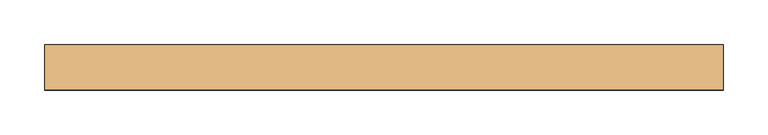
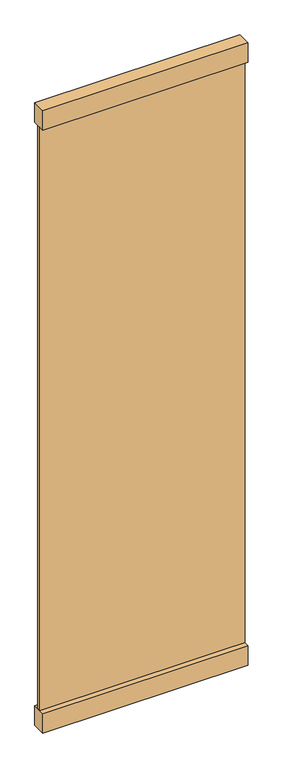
"""IFC4 building model written with IfcOpenShell, lengths in millimetres: door geometry, Planitar - Swap_Full Glass_Panel_D2 : Planitar - Swap_Full Glass_Panel_D2."""

from ifc_helpers import new_model, si_unit, frame, origin, origin_with_axes, place, context, project, spatial, polyline, outline, extrude, source, transform, mapped, element, save


def door_7e4cb601(model_context):
    return source(origin(), model_context, "Body", "SweptSolid", [
        extrude(outline(polyline([(381.0, 25.4), (381.0, -25.4), (-381.0, -25.4), (-381.0, 25.4), (381.0, 25.4)])), origin_with_axes(), (0.0, 0.0, 1.0), 76.2),
        extrude(outline(polyline([(381.0, 25.4), (381.0, -25.4), (-381.0, -25.4), (-381.0, 25.4), (381.0, 25.4)])), frame((0.0, 0.0, 2362.2), z_axis=(0.0, 0.0, 1.0), x_axis=(1.0, 0.0, 0.0)), (0.0, 0.0, 1.0), 76.2),
        extrude(outline(polyline([(381.0, 6.35), (381.0, -6.35), (-381.0, -6.35), (-381.0, 6.35), (381.0, 6.35)])), frame((0.0, 0.0, 76.2), z_axis=(0.0, 0.0, 1.0), x_axis=(1.0, 0.0, 0.0)), (0.0, 0.0, 1.0), 2286.0),
    ])


if __name__ == "__main__":
    model = new_model("IFC4")
    model_context = context("Model", 3, world=origin())
    ifc_project = project(units=[si_unit("LENGTHUNIT", "METRE", prefix="MILLI")], contexts=[model_context])
    site = spatial("IfcSite", under=ifc_project)
    building = spatial("IfcBuilding", under=site)
    placement = place(None, origin())
    door_shape = door_7e4cb601(model_context)
    element("IfcDoor", 1, ObjectType="Planitar - Swap_Full Glass_Panel_D2 : Planitar - Swap_Full Glass_Panel_D2", at=placement, inside=building, context=model_context, shape_type="MappedRepresentation", body=[
        mapped(door_shape, transform((0.0, 0.0, 0.0), x_axis=(1.0, 0.0, 0.0), y_axis=(0.0, 1.0, 0.0), z_axis=(0.0, 0.0, 1.0))),
    ])
    save(model, "model.ifc")
